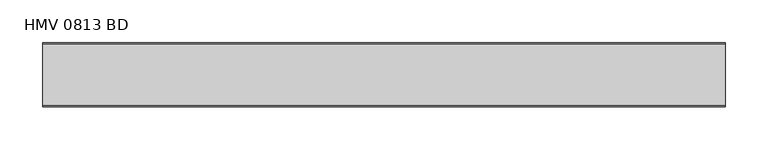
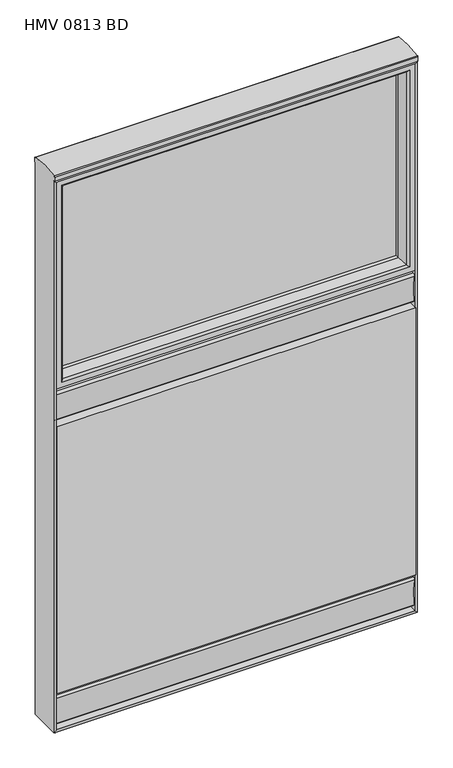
"""IFC4 building model written with IfcOpenShell, lengths in millimetres: furniture geometry, Mobiliário_MobiliáriodeEscritório_LinhaHabitat_PainelHabitatMisto-MelaminaeVidroBasculante2Lado_Marelli : HMV 0813 BD."""

from ifc_helpers import new_model, si_unit, point, frame, frame_2d, origin, place, context, project, spatial, polyline, circle_curve, ellipse_curve, trimmed, segment, composite_curve, outline, extrude, source, transform, mapped, element, save
from ifc_brep_helpers import plane_surface, cylinder_surface, advanced_brep


def hmv_0813_bd_09db433a(model_context):
    return source(origin(), model_context, "Body", "SolidModel", [
        extrude(outline(composite_curve([segment(polyline([(55.0, 90.0), (55.0, 80.0), (65.980067, 80.0)]), True, "CONTINUOUS"), segment(trimmed(circle_curve(frame_2d((65.980067, 75.980067)), 4.019933), [point((65.980067, 80.0))], [point((69.831007, 74.8267575))], False, "CARTESIAN"), True, "CONTINUOUS"), segment(trimmed(circle_curve(frame_2d((200.7096213, 43.9493843)), 134.4716471), [point((69.831007, 74.8267575))], [point((68.9861321, 16.9022723))], True, "CARTESIAN"), True, "CONTINUOUS"), segment(trimmed(circle_curve(frame_2d((67.0270055, 16.5)), 2.0), [point((68.9861321, 16.9022723))], [point((67.0270055, 14.5))], False, "CARTESIAN"), True, "CONTINUOUS"), segment(polyline([(67.0270055, 14.5), (55.0, 14.5), (55.0, 4.5), (20.0, 4.5), (20.0, 14.5), (7.9729945, 14.5)]), True, "CONTINUOUS"), segment(trimmed(circle_curve(frame_2d((7.9729945, 16.5)), 2.0), [point((7.9729945, 14.5))], [point((6.0138679, 16.9022723))], False, "CARTESIAN"), True, "CONTINUOUS"), segment(trimmed(circle_curve(frame_2d((-125.7096213, 43.9493843)), 134.4716471), [point((6.0138679, 16.9022723))], [point((5.168993, 74.8267575))], True, "CARTESIAN"), True, "CONTINUOUS"), segment(trimmed(circle_curve(frame_2d((9.019933, 75.980067)), 4.019933), [point((5.168993, 74.8267575))], [point((9.019933, 80.0))], False, "CARTESIAN"), True, "CONTINUOUS"), segment(polyline([(9.019933, 80.0), (20.0, 80.0), (20.0, 90.0), (55.0, 90.0)]), True, "CONTINUOUS")], self_intersect=False)), frame((4.5, 0.0, 0.0), z_axis=(1.0, 0.0, 0.0), x_axis=(0.0, 1.0, 0.0)), (0.0, 0.0, 1.0), 791.0),
        advanced_brep(
        [(0.0, 0.0, 1284.4135569), (0.0, 0.0, 1294.184829), (0.0, 1.4147018, 1296.2946718), (0.0, 73.7415241, 1296.2666026), (0.0, 75.0, 1294.2721511), (0.0, 75.0, 1284.4135569), (0.0, 72.75, 1284.4135569), (0.0, 72.75, 0.0), (0.0, 2.25, 0.0), (0.0, 2.25, 1284.4135569), (800.0, 75.0, 1284.4135569), (800.0, 75.0, 1294.2721511), (800.0, 73.7415241, 1296.2666026), (800.0, 1.4147018, 1296.2946718), (800.0, 0.0, 1294.184829), (800.0, 0.0, 1284.4135569), (800.0, 2.25, 1284.4135569), (800.0, 2.25, 0.0), (800.0, 72.75, 0.0), (800.0, 72.75, 1284.4135569), (4.5, 72.75, 4.5), (795.5, 72.75, 4.5), (795.5, 2.25, 4.5), (4.5, 2.25, 4.5), (795.5, 72.75, 1279.9135569), (795.5, 2.25, 1279.9135569), (4.5, 72.75, 1279.9135569), (4.5, 2.25, 1279.9135569)],
        [
            (0, 1),
            (1, 2, circle_curve(frame((0.0, 2.2806283, 1294.184829), z_axis=(-1.0, 0.0, 0.0), x_axis=(0.0, 1.0, 0.0)), 2.2806283)),
            (2, 3, circle_curve(frame((0.0, 37.5106051, 1122.3310283), z_axis=(-1.0, 0.0, 0.0), x_axis=(0.0, 1.0, 0.0)), 177.6689717)),
            (3, 4, circle_curve(frame((0.0, 72.7903437, 1294.2721511), z_axis=(-1.0, 0.0, 0.0), x_axis=(0.0, 1.0, 0.0)), 2.2096563)),
            (4, 5),
            (5, 6),
            (6, 7),
            (7, 8),
            (8, 9),
            (9, 0),
            (10, 11),
            (11, 12, circle_curve(frame((800.0, 72.7903437, 1294.2721511), z_axis=(1.0, 0.0, 0.0), x_axis=(0.0, 1.0, 0.0)), 2.2096563)),
            (12, 13, circle_curve(frame((800.0, 37.5106051, 1122.3310283), z_axis=(1.0, 0.0, 0.0), x_axis=(0.0, 1.0, 0.0)), 177.6689717)),
            (13, 14, circle_curve(frame((800.0, 2.2806283, 1294.184829), z_axis=(1.0, 0.0, 0.0), x_axis=(0.0, 1.0, 0.0)), 2.2806283)),
            (14, 15),
            (15, 16),
            (16, 17),
            (17, 18),
            (18, 19),
            (19, 10),
            (4, 11),
            (10, 5),
            (3, 12),
            (2, 13),
            (1, 14),
            (0, 15),
            (19, 6),
            (9, 16),
            (7, 20, ellipse_curve(frame((2.25, 72.75, 2.25), z_axis=(0.7071067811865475, 0.0, -0.7071067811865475), x_axis=(-0.7071067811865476, 0.0, -0.7071067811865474)), 3.1819805, 2.25)),
            (20, 21),
            (21, 18, ellipse_curve(frame((797.75, 72.75, 2.25), z_axis=(-0.7071067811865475, 0.0, -0.7071067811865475), x_axis=(-0.7071067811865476, 0.0, 0.7071067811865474)), 3.1819805, 2.25)),
            (18, 7),
            (17, 8),
            (17, 22, ellipse_curve(frame((797.75, 2.25, 2.25), z_axis=(-0.7071067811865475, 0.0, -0.7071067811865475), x_axis=(-0.7071067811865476, 0.0, 0.7071067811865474)), 3.1819805, 2.25)),
            (22, 23),
            (23, 8, ellipse_curve(frame((2.25, 2.25, 2.25), z_axis=(0.7071067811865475, 0.0, -0.7071067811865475), x_axis=(-0.7071067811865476, 0.0, -0.7071067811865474)), 3.1819805, 2.25)),
            (20, 23),
            (22, 21),
            (21, 24),
            (24, 19, ellipse_curve(frame((797.75, 72.75, 1282.1635569), z_axis=(0.7071067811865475, 0.0, -0.7071067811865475), x_axis=(-0.7071067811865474, 0.0, -0.7071067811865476)), 3.1819805, 2.25)),
            (16, 25, ellipse_curve(frame((797.75, 2.25, 1282.1635569), z_axis=(0.7071067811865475, 0.0, -0.7071067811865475), x_axis=(-0.7071067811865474, 0.0, -0.7071067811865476)), 3.1819805, 2.25)),
            (25, 22),
            (25, 24),
            (24, 26),
            (26, 6, ellipse_curve(frame((2.25, 72.75, 1282.1635569), z_axis=(0.7071067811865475, 0.0, 0.7071067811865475), x_axis=(0.7071067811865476, 0.0, -0.7071067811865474)), 3.1819805, 2.25)),
            (9, 27, ellipse_curve(frame((2.25, 2.25, 1282.1635569), z_axis=(0.7071067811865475, 0.0, 0.7071067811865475), x_axis=(0.7071067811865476, 0.0, -0.7071067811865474)), 3.1819805, 2.25)),
            (27, 25),
            (27, 26),
            (26, 20),
            (23, 27),
        ],
        [
            plane_surface(frame((0.0, 75.0, 1294.2721511), z_axis=(-1.0, 0.0, 0.0), x_axis=(0.0, 0.0, -1.0))),
            plane_surface(frame((800.0, 75.0, 1294.2721511), z_axis=(1.0, 0.0, 0.0), x_axis=(0.0, 0.0, 1.0))),
            plane_surface(frame((800.0, 75.0, 1284.4135569), z_axis=(0.0, 1.0, 0.0), x_axis=(-1.0, 0.0, 0.0))),
            cylinder_surface(frame((0.0, 72.7903437, 1294.2721511), z_axis=(1.0, 0.0, 0.0), x_axis=(0.0, 1.0, 0.0)), 2.2096563),
            cylinder_surface(frame((0.0, 37.5106051, 1122.3310283), z_axis=(1.0, 0.0, 0.0), x_axis=(0.0, 1.0, 0.0)), 177.6689717),
            cylinder_surface(frame((0.0, 2.2806283, 1294.184829), z_axis=(1.0, 0.0, 0.0), x_axis=(0.0, 1.0, 0.0)), 2.2806283),
            plane_surface(frame((800.0, 0.0, 1294.184829), z_axis=(0.0, -1.0, 0.0), x_axis=(-1.0, 0.0, 0.0))),
            plane_surface(frame((800.0, 0.0, 1284.4135569), z_axis=(0.0, 0.0, -1.0), x_axis=(-1.0, 0.0, 0.0))),
            cylinder_surface(frame((0.0, 72.75, 2.25), z_axis=(-1.0, 0.0, 0.0), x_axis=(0.0, -1.0, 0.0)), 2.25),
            plane_surface(frame((0.0, 72.75, 0.0), z_axis=(0.0, 0.0, -1.0), x_axis=(1.0, 0.0, 0.0))),
            cylinder_surface(frame((0.0, 2.25, 2.25), z_axis=(-1.0, 0.0, 0.0), x_axis=(0.0, -1.0, 0.0)), 2.25),
            plane_surface(frame((4.5, 2.25, 4.5), z_axis=(0.0, 0.0, 1.0), x_axis=(1.0, 0.0, 0.0))),
            cylinder_surface(frame((797.75, 72.75, 0.0), z_axis=(0.0, 0.0, -1.0), x_axis=(0.0, -1.0, 0.0)), 2.25),
            cylinder_surface(frame((797.75, 2.25, 0.0), z_axis=(0.0, 0.0, -1.0), x_axis=(0.0, -1.0, 0.0)), 2.25),
            plane_surface(frame((795.5, 2.25, 4.5), z_axis=(-1.0, 0.0, 0.0), x_axis=(0.0, 0.0, 1.0))),
            cylinder_surface(frame((800.0, 72.75, 1282.1635569), z_axis=(1.0, 0.0, 0.0), x_axis=(0.0, -1.0, 0.0)), 2.25),
            cylinder_surface(frame((800.0, 2.25, 1282.1635569), z_axis=(1.0, 0.0, 0.0), x_axis=(0.0, -1.0, 0.0)), 2.25),
            plane_surface(frame((795.5, 2.25, 1279.9135569), z_axis=(0.0, 0.0, -1.0), x_axis=(-1.0, 0.0, 0.0))),
            cylinder_surface(frame((2.25, 72.75, 1284.4135569), z_axis=(0.0, 0.0, 1.0), x_axis=(0.0, -1.0, 0.0)), 2.25),
            cylinder_surface(frame((2.25, 2.25, 1284.4135569), z_axis=(0.0, 0.0, 1.0), x_axis=(0.0, -1.0, 0.0)), 2.25),
            plane_surface(frame((4.5, 2.25, 1279.9135569), z_axis=(1.0, 0.0, 0.0), x_axis=(0.0, 0.0, -1.0))),
        ],
        [
            (0, [[1, 2, 3, 4, 5, 6, 7, 8, 9, 10]]),
            (1, [[11, 12, 13, 14, 15, 16, 17, 18, 19, 20]]),
            (2, [[-5, 21, -11, 22]]),
            (3, [[-4, 23, -12, -21]]),
            (4, [[-3, 24, -13, -23]]),
            (5, [[-2, 25, -14, -24]]),
            (6, [[-1, 26, -15, -25]]),
            (7, [[-22, -20, 27, -6]]),
            (7, [[-26, -10, 28, -16]]),
            (8, [[29, 30, 31, 32]]),
            (9, [[-32, -18, 33, -8]]),
            (10, [[-33, 34, 35, 36]]),
            (11, [[-30, 37, -35, 38]]),
            (12, [[-31, 39, 40, -19]]),
            (13, [[-34, -17, 41, 42]]),
            (14, [[-38, -42, 43, -39]]),
            (15, [[-40, 44, 45, -27]]),
            (16, [[-41, -28, 46, 47]]),
            (17, [[-43, -47, 48, -44]]),
            (18, [[-29, -7, -45, 49]]),
            (19, [[-36, 50, -46, -9]]),
            (20, [[-37, -49, -48, -50]]),
        ],
    ),
        extrude(outline(composite_curve([segment(polyline([(55.0, 797.5), (55.0, 787.5), (65.980067, 787.5)]), True, "CONTINUOUS"), segment(trimmed(circle_curve(frame_2d((65.980067, 783.480067)), 4.019933), [point((65.980067, 787.5))], [point((69.831007, 782.3267575))], False, "CARTESIAN"), True, "CONTINUOUS"), segment(trimmed(circle_curve(frame_2d((200.7096213, 751.4493843)), 134.4716471), [point((69.831007, 782.3267575))], [point((68.9861321, 724.4022723))], True, "CARTESIAN"), True, "CONTINUOUS"), segment(trimmed(circle_curve(frame_2d((67.0270055, 724.0)), 2.0), [point((68.9861321, 724.4022723))], [point((67.0270055, 722.0))], False, "CARTESIAN"), True, "CONTINUOUS"), segment(polyline([(67.0270055, 722.0), (55.0, 722.0), (55.0, 712.0), (20.0, 712.0), (20.0, 722.0), (7.9729945, 722.0)]), True, "CONTINUOUS"), segment(trimmed(circle_curve(frame_2d((7.9729945, 724.0)), 2.0), [point((7.9729945, 722.0))], [point((6.0138679, 724.4022723))], False, "CARTESIAN"), True, "CONTINUOUS"), segment(trimmed(circle_curve(frame_2d((-125.7096213, 751.4493843)), 134.4716471), [point((6.0138679, 724.4022723))], [point((5.168993, 782.3267575))], True, "CARTESIAN"), True, "CONTINUOUS"), segment(trimmed(circle_curve(frame_2d((9.019933, 783.480067)), 4.019933), [point((5.168993, 782.3267575))], [point((9.019933, 787.5))], False, "CARTESIAN"), True, "CONTINUOUS"), segment(polyline([(9.019933, 787.5), (20.0, 787.5), (20.0, 797.5), (55.0, 797.5)]), True, "CONTINUOUS")], self_intersect=False)), frame((4.5, 0.0, 0.0), z_axis=(1.0, 0.0, 0.0), x_axis=(0.0, 1.0, 0.0)), (0.0, 0.0, 1.0), 791.0),
        extrude(outline(polyline([(795.5, 75.0), (795.5, 0.0), (4.5, 0.0), (4.5, 75.0), (795.5, 75.0)])), frame((0.0, 0.0, 90.0), z_axis=(0.0, 0.0, 1.0), x_axis=(1.0, 0.0, 0.0)), (0.0, 0.0, 1.0), 622.0),
        advanced_brep(
        [(795.5, 2.5, 797.5), (795.5, 72.5, 797.5), (795.5, 72.5, 1279.9135569), (795.5, 2.5, 1279.9135569), (779.3, 6.3, 813.7), (783.1, 2.5, 809.9), (783.1, 2.5, 1267.5135569), (779.3, 6.3, 1263.7135569), (773.0, 27.5, 820.0), (773.0, 27.5, 1257.4135569), (773.0, 47.5, 820.0), (773.0, 47.5, 1257.4135569), (779.3, 68.7, 813.7), (779.3, 68.7, 1263.7135569), (783.1, 72.5, 809.9), (783.1, 72.5, 1267.5135569), (4.5, 72.5, 1279.9135569), (4.5, 2.5, 1279.9135569), (16.9, 2.5, 1267.5135569), (20.7, 6.3, 1263.7135569), (27.0, 27.5, 1257.4135569), (27.0, 47.5, 1257.4135569), (20.7, 68.7, 1263.7135569), (16.9, 72.5, 1267.5135569), (4.5, 72.5, 797.5), (4.5, 2.5, 797.5), (16.9, 2.5, 809.9), (20.7, 6.3, 813.7), (27.0, 27.5, 820.0), (27.0, 47.5, 820.0), (20.7, 68.7, 813.7), (16.9, 72.5, 809.9)],
        [
            (0, 1),
            (1, 2),
            (2, 3),
            (3, 0),
            (4, 5, ellipse_curve(frame((785.2236888, 8.4236888, 807.7763112), z_axis=(0.7071067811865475, 0.0, 0.7071067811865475), x_axis=(0.7071067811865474, 0.0, -0.7071067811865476)), 8.8994542, 6.2928644)),
            (5, 6),
            (6, 7, ellipse_curve(frame((785.2236888, 8.4236888, 1269.6372457), z_axis=(0.7071067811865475, 0.0, -0.7071067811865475), x_axis=(-0.7071067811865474, 0.0, -0.7071067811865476)), 8.8994542, 6.2928644)),
            (7, 4),
            (8, 4),
            (7, 9),
            (9, 8),
            (10, 8),
            (9, 11),
            (11, 10),
            (12, 10),
            (11, 13),
            (13, 12),
            (14, 12, ellipse_curve(frame((785.2236888, 66.5763112, 807.7763112), z_axis=(0.7071067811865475, 0.0, 0.7071067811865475), x_axis=(0.7071067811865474, 0.0, -0.7071067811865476)), 8.8994542, 6.2928644)),
            (13, 15, ellipse_curve(frame((785.2236888, 66.5763112, 1269.6372457), z_axis=(0.7071067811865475, 0.0, -0.7071067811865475), x_axis=(-0.7071067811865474, 0.0, -0.7071067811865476)), 8.8994542, 6.2928644)),
            (15, 14),
            (2, 16),
            (16, 17),
            (17, 3),
            (6, 18),
            (18, 19, ellipse_curve(frame((14.7763112, 8.4236888, 1269.6372457), z_axis=(0.7071067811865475, 0.0, 0.7071067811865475), x_axis=(0.7071067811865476, 0.0, -0.7071067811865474)), 8.8994542, 6.2928644)),
            (19, 7),
            (19, 20),
            (20, 9),
            (20, 21),
            (21, 11),
            (21, 22),
            (22, 13),
            (22, 23, ellipse_curve(frame((14.7763112, 66.5763112, 1269.6372457), z_axis=(0.7071067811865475, 0.0, 0.7071067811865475), x_axis=(0.7071067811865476, 0.0, -0.7071067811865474)), 8.8994542, 6.2928644)),
            (23, 15),
            (16, 24),
            (24, 25),
            (25, 17),
            (18, 26),
            (26, 27, ellipse_curve(frame((14.7763112, 8.4236888, 807.7763112), z_axis=(-0.7071067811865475, 0.0, 0.7071067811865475), x_axis=(0.7071067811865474, 0.0, 0.7071067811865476)), 8.8994542, 6.2928644)),
            (27, 19),
            (27, 28),
            (28, 20),
            (28, 29),
            (29, 21),
            (29, 30),
            (30, 22),
            (30, 31, ellipse_curve(frame((14.7763112, 66.5763112, 807.7763112), z_axis=(-0.7071067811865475, 0.0, 0.7071067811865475), x_axis=(0.7071067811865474, 0.0, 0.7071067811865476)), 8.8994542, 6.2928644)),
            (31, 23),
            (24, 1),
            (0, 25),
            (5, 26),
            (4, 27),
            (8, 28),
            (10, 29),
            (12, 30),
            (14, 31),
        ],
        [
            plane_surface(frame((795.5, 72.5, 797.5), z_axis=(1.0, 0.0, 0.0), x_axis=(0.0, 0.0, 1.0))),
            cylinder_surface(frame((785.2236888, 8.4236888, 797.5), z_axis=(0.0, 0.0, -1.0), x_axis=(-1.0, 0.0, 0.0)), 6.2928644),
            plane_surface(frame((779.3, 6.3, 813.7), z_axis=(-0.9585697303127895, -0.2848579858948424, 0.0), x_axis=(0.0, 0.0, 1.0))),
            plane_surface(frame((773.0, 27.5, 820.0), z_axis=(-1.0, 0.0, 0.0), x_axis=(0.0, 0.0, 1.0))),
            plane_surface(frame((773.0, 47.5, 820.0), z_axis=(-0.9585697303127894, 0.2848579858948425, 0.0), x_axis=(0.0, 0.0, 1.0))),
            cylinder_surface(frame((785.2236888, 66.5763112, 797.5), z_axis=(0.0, 0.0, -1.0), x_axis=(-1.0, 0.0, 0.0)), 6.2928644),
            plane_surface(frame((795.5, 72.5, 1279.9135569), z_axis=(0.0, 0.0, 1.0), x_axis=(-1.0, 0.0, 0.0))),
            cylinder_surface(frame((795.5, 8.4236888, 1269.6372457), z_axis=(1.0, 0.0, 0.0), x_axis=(0.0, 0.0, -1.0)), 6.2928644),
            plane_surface(frame((779.3, 6.3, 1263.7135569), z_axis=(0.0, -0.2848579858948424, -0.9585697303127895), x_axis=(-1.0, 0.0, 0.0))),
            plane_surface(frame((773.0, 27.5, 1257.4135569), z_axis=(0.0, 0.0, -1.0), x_axis=(-1.0, 0.0, 0.0))),
            plane_surface(frame((773.0, 47.5, 1257.4135569), z_axis=(0.0, 0.2848579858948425, -0.9585697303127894), x_axis=(-1.0, 0.0, 0.0))),
            cylinder_surface(frame((795.5, 66.5763112, 1269.6372457), z_axis=(1.0, 0.0, 0.0), x_axis=(0.0, 0.0, -1.0)), 6.2928644),
            plane_surface(frame((4.5, 72.5, 1279.9135569), z_axis=(-1.0, 0.0, 0.0), x_axis=(0.0, 0.0, -1.0))),
            cylinder_surface(frame((14.7763112, 8.4236888, 1279.9135569), z_axis=(0.0, 0.0, 1.0), x_axis=(1.0, 0.0, 0.0)), 6.2928644),
            plane_surface(frame((20.7, 6.3, 1263.7135569), z_axis=(0.9585697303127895, -0.2848579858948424, 0.0), x_axis=(0.0, 0.0, -1.0))),
            plane_surface(frame((27.0, 27.5, 1257.4135569), z_axis=(1.0, 0.0, 0.0), x_axis=(0.0, 0.0, -1.0))),
            plane_surface(frame((27.0, 47.5, 1257.4135569), z_axis=(0.9585697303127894, 0.2848579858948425, 0.0), x_axis=(0.0, 0.0, -1.0))),
            cylinder_surface(frame((14.7763112, 66.5763112, 1279.9135569), z_axis=(0.0, 0.0, 1.0), x_axis=(1.0, 0.0, 0.0)), 6.2928644),
            plane_surface(frame((4.5, 72.5, 797.5), z_axis=(0.0, 0.0, -1.0), x_axis=(1.0, 0.0, 0.0))),
            plane_surface(frame((4.5, 2.5, 797.5), z_axis=(0.0, -1.0, 0.0), x_axis=(1.0, 0.0, 0.0))),
            cylinder_surface(frame((4.5, 8.4236888, 807.7763112), z_axis=(-1.0, 0.0, 0.0), x_axis=(0.0, 0.0, 1.0)), 6.2928644),
            plane_surface(frame((20.7, 6.3, 813.7), z_axis=(0.0, -0.2848579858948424, 0.9585697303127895), x_axis=(1.0, 0.0, 0.0))),
            plane_surface(frame((27.0, 27.5, 820.0), z_axis=(0.0, 0.0, 1.0), x_axis=(1.0, 0.0, 0.0))),
            plane_surface(frame((27.0, 47.5, 820.0), z_axis=(0.0, 0.2848579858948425, 0.9585697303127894), x_axis=(1.0, 0.0, 0.0))),
            cylinder_surface(frame((4.5, 66.5763112, 807.7763112), z_axis=(-1.0, 0.0, 0.0), x_axis=(0.0, 0.0, 1.0)), 6.2928644),
            plane_surface(frame((16.9, 72.5, 809.9), z_axis=(0.0, 1.0, 0.0), x_axis=(1.0, 0.0, 0.0))),
        ],
        [
            (0, [[1, 2, 3, 4]]),
            (1, [[5, 6, 7, 8]]),
            (2, [[9, -8, 10, 11]]),
            (3, [[12, -11, 13, 14]]),
            (4, [[15, -14, 16, 17]]),
            (5, [[18, -17, 19, 20]]),
            (6, [[-3, 21, 22, 23]]),
            (7, [[-7, 24, 25, 26]]),
            (8, [[-10, -26, 27, 28]]),
            (9, [[-13, -28, 29, 30]]),
            (10, [[-16, -30, 31, 32]]),
            (11, [[-19, -32, 33, 34]]),
            (12, [[-22, 35, 36, 37]]),
            (13, [[-25, 38, 39, 40]]),
            (14, [[-27, -40, 41, 42]]),
            (15, [[-29, -42, 43, 44]]),
            (16, [[-31, -44, 45, 46]]),
            (17, [[-33, -46, 47, 48]]),
            (18, [[-36, 49, -1, 50]]),
            (19, [[-23, -37, -50, -4], [51, -38, -24, -6]]),
            (20, [[-39, -51, -5, 52]]),
            (21, [[-41, -52, -9, 53]]),
            (22, [[-43, -53, -12, 54]]),
            (23, [[-45, -54, -15, 55]]),
            (24, [[-47, -55, -18, 56]]),
            (25, [[-49, -35, -21, -2], [-34, -48, -56, -20]]),
        ],
    ),
        extrude(outline(polyline([(773.0, 35.5), (27.0, 35.5), (27.0, 39.5), (773.0, 39.5), (773.0, 35.5)])), frame((0.0, 0.0, 820.0), z_axis=(0.0, 0.0, 1.0), x_axis=(1.0, 0.0, 0.0)), (0.0, 0.0, 1.0), 437.4135569),
    ])


if __name__ == "__main__":
    model = new_model("IFC4")
    model_context = context("Model", 3, world=origin())
    ifc_project = project(units=[si_unit("LENGTHUNIT", "METRE", prefix="MILLI")], contexts=[model_context])
    site = spatial("IfcSite", under=ifc_project)
    building = spatial("IfcBuilding", under=site)
    placement = place(None, origin())
    hmv_0813_bd_shape = hmv_0813_bd_09db433a(model_context)
    element("IfcFurniture", 1, ObjectType="Mobiliário_MobiliáriodeEscritório_LinhaHabitat_PainelHabitatMisto-MelaminaeVidroBasculante2Lado_Marelli : HMV 0813 BD", at=placement, inside=building, context=model_context, shape_type="MappedRepresentation", body=[
        mapped(hmv_0813_bd_shape, transform((0.0, 0.0, 0.0), x_axis=(1.0, 0.0, 0.0), y_axis=(0.0, 1.0, 0.0), z_axis=(0.0, 0.0, 1.0))),
    ])
    save(model, "model.ifc")
